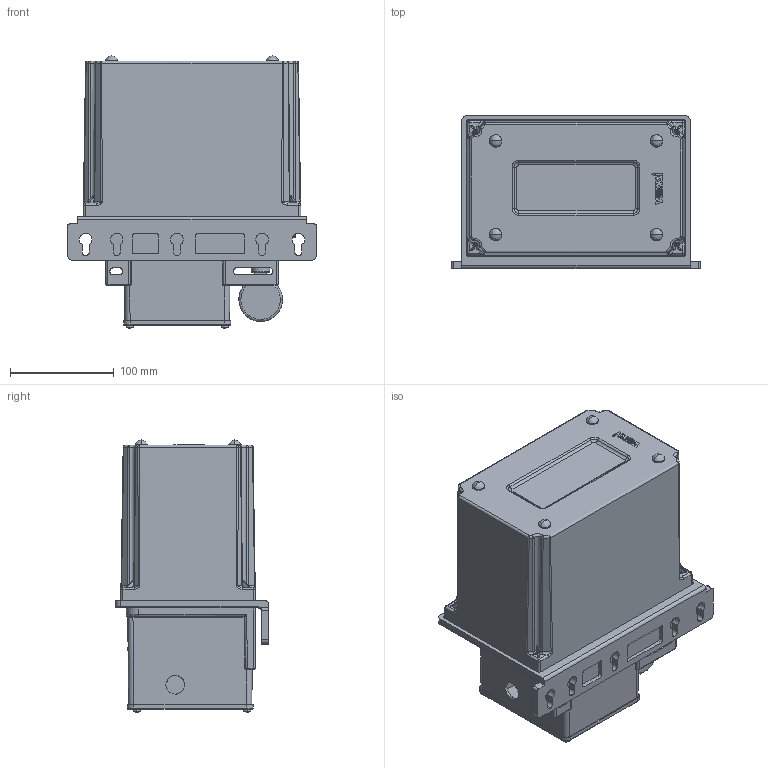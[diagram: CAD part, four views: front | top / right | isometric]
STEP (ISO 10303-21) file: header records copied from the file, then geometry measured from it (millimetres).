
FILE_DESCRIPTION (( 'STEP AP203' ), '1' );
FILE_NAME ('ADL不带控制抵坑式3L.STEP', '2020-04-13T03:41:25', ( '个人用户' ), ( '微软中国' ), 'SwSTEP 2.0', 'SolidWorks 2018', '' );
FILE_SCHEMA (( 'CONFIG_CONTROL_DESIGN' ));
Length unit declared in the file: millimetre
Products named in the file (1): ADL祥湍諷秶萋諧宒3L
Bounding box: 240 x 147.45 x 262.32 mm (x, y, z)
Surface area: 276840 mm2 (no closed solid volume)
Topology: 0 solids, 45 shells, 825 faces, 2925 edges, 2078 vertices
Faces by surface type: plane 336, cylinder 234, bspline 162, cone 55, torus 24, sphere 14
Entity records: 46471 total; most frequent: CARTESIAN_POINT 23488, ORIENTED_EDGE 4591, DIRECTION 4181, EDGE_CURVE 2924, VERTEX_POINT 2078, VECTOR 1499, LINE 1499, AXIS2_PLACEMENT_3D 1341
